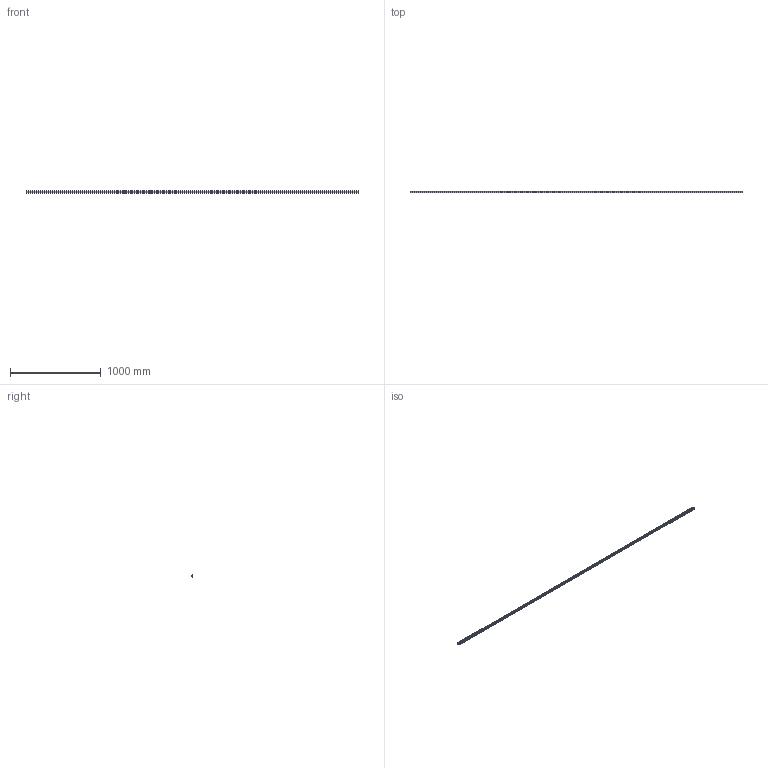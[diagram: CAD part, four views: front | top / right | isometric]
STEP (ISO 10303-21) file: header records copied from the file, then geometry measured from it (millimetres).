
FILE_DESCRIPTION (( 'STEP AP203' ), '1' );
FILE_NAME ('L1018.25R-3660.step', '2023-08-06T10:49:08', ( '' ), ( '' ), 'SwSTEP 2.0', 'SolidWorks 2019', '' );
FILE_SCHEMA (( 'CONFIG_CONTROL_DESIGN' ));
Length unit declared in the file: millimetre
Products named in the file (1): L1018.25R-3660
Bounding box: 3660 x 21.8 x 25 mm (x, y, z)
Volume: 1522150.5 mm3; surface area: 364283.2 mm2
Topology: 1 solids, 1 shells, 578 faces, 1301 edges, 725 vertices
Faces by surface type: cylinder 247, cone 244, plane 87
Entity records: 15272 total; most frequent: DIRECTION 2953, CARTESIAN_POINT 2483, ORIENTED_EDGE 2358, AXIS2_PLACEMENT_3D 1195, EDGE_CURVE 1179, VERTEX_POINT 725, EDGE_LOOP 700, CIRCLE 616
